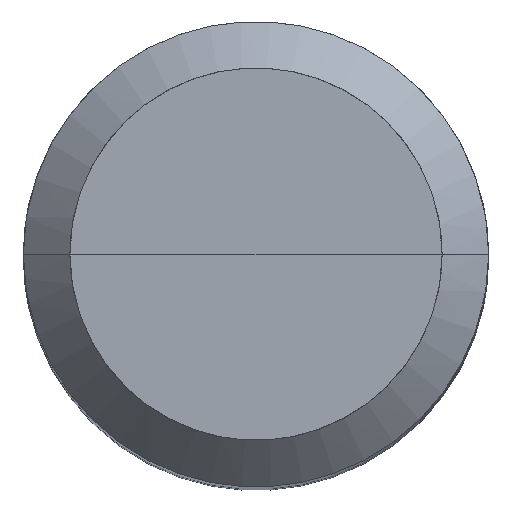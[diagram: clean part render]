
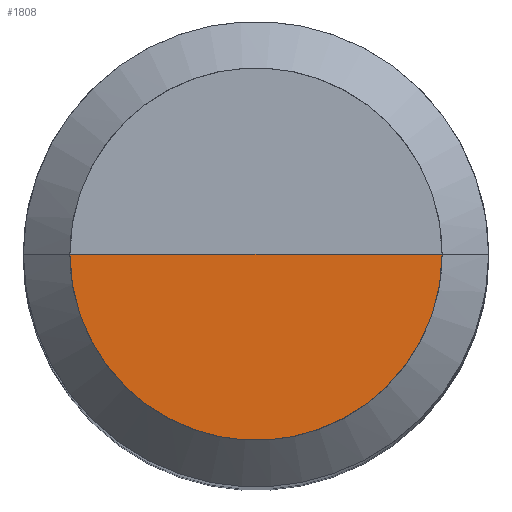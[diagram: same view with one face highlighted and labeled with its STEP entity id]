
A CAD part, top view. The second image highlights one B-rep face of the part: STEP entity #1808.
In plain terms, the highlighted free-form (B-spline) face has degree [1, 2] with [2, 5] control points.
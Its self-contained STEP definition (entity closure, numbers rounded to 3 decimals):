
#1537=CARTESIAN_POINT('',(6.4,0.0,48.0));
#1541=CARTESIAN_POINT('',(-6.4,0.0,48.0));
#1542=CARTESIAN_POINT('',(0.0,0.0,48.0));
#1546=CARTESIAN_POINT('',(-6.4,-6.4,48.0));
#1547=CARTESIAN_POINT('',(0.0,-6.4,48.0));
#1548=CARTESIAN_POINT('',(6.4,-6.4,48.0));
#1793=(
BOUNDED_SURFACE()
B_SPLINE_SURFACE(1,2,(
(#1541,#1546,#1547,#1548,#1537),
(#1542,#1542,#1542,#1542,#1542)
), .UNSPECIFIED.,.F.,.F.,.F.)
B_SPLINE_SURFACE_WITH_KNOTS((2,2),(3,2,3),(
0.0,1.0),(
0.0,0.5,1.0), .UNSPECIFIED.)
GEOMETRIC_REPRESENTATION_ITEM()
RATIONAL_B_SPLINE_SURFACE(((1.0,0.707,1.0,0.707,1.0),
(1.0,0.707,1.0,0.707,1.0)
))
REPRESENTATION_ITEM('')
SURFACE()
);
#1794=(
BOUNDED_CURVE()
B_SPLINE_CURVE(2,(#1537,#1548,#1547,#1546,#1541),.UNSPECIFIED.,.F.,.F.)
B_SPLINE_CURVE_WITH_KNOTS((3,2,3),
(0.0,0.5,1.0),.UNSPECIFIED.)
CURVE()
GEOMETRIC_REPRESENTATION_ITEM()
RATIONAL_B_SPLINE_CURVE((1.0,0.707,1.0,0.707,1.0))
REPRESENTATION_ITEM('')
);
#1795=(
BOUNDED_CURVE()
B_SPLINE_CURVE(1,(#1541,#1542),.UNSPECIFIED.,.F.,.F.)
B_SPLINE_CURVE_WITH_KNOTS((2,2),
(0.0,1.0),.UNSPECIFIED.)
CURVE()
GEOMETRIC_REPRESENTATION_ITEM()
RATIONAL_B_SPLINE_CURVE((1.0,1.0))
REPRESENTATION_ITEM('')
);
#1796=(
BOUNDED_CURVE()
B_SPLINE_CURVE(1,(#1542,#1537),.UNSPECIFIED.,.F.,.F.)
B_SPLINE_CURVE_WITH_KNOTS((2,2),
(0.0,1.0),.UNSPECIFIED.)
CURVE()
GEOMETRIC_REPRESENTATION_ITEM()
RATIONAL_B_SPLINE_CURVE((1.0,1.0))
REPRESENTATION_ITEM('')
);
#1797=VERTEX_POINT('',#1537);
#1798=VERTEX_POINT('',#1541);
#1799=VERTEX_POINT('',#1542);
#1800=EDGE_CURVE('',#1797,#1798,#1794,.T.);
#1801=EDGE_CURVE('',#1798,#1799,#1795,.T.);
#1802=EDGE_CURVE('',#1799,#1797,#1796,.T.);
#1803=ORIENTED_EDGE('',*,*,#1800,.T.);
#1804=ORIENTED_EDGE('',*,*,#1801,.T.);
#1805=ORIENTED_EDGE('',*,*,#1802,.T.);
#1806=EDGE_LOOP('',(#1803,#1804,#1805));
#1807=FACE_OUTER_BOUND('',#1806,.T.);
#1808=ADVANCED_FACE('',(#1807),#1793,.T.);
